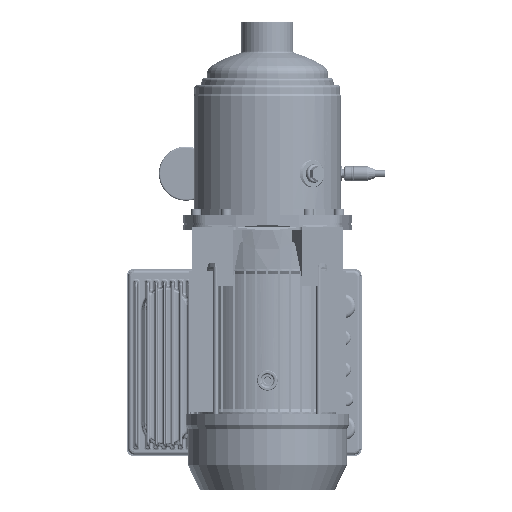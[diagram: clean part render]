
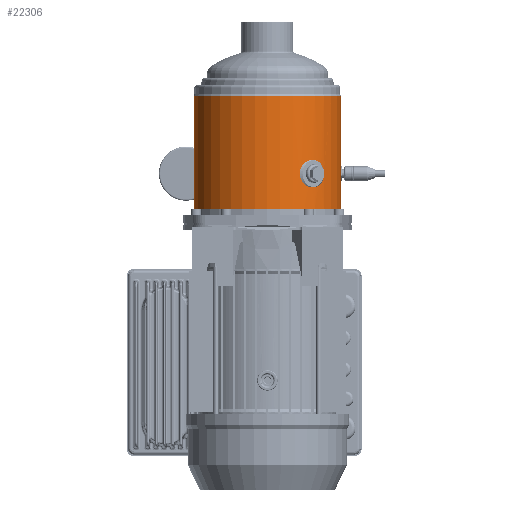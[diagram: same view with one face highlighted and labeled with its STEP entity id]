
A CAD part, front view. The second image highlights one B-rep face of the part: STEP entity #22306.
In plain terms, the highlighted cylindrical face has radius 72 mm (diameter 144 mm), a partial arc.
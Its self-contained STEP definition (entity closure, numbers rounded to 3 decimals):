
#19451=CARTESIAN_POINT('',(0.,8.4,0.));
#19452=DIRECTION('',(0.,1.,0.));
#19453=DIRECTION('',(0.,0.,-1.));
#19454=AXIS2_PLACEMENT_3D('',#19451,#19452,#19453);
#19527=DIRECTION('',(0.,1.,0.));
#19528=VECTOR('',#19527,110.614);
#19529=CARTESIAN_POINT('',(0.,8.4,-72.));
#19530=LINE('',#19529,#19528);
#19534=DIRECTION('',(0.,-1.,0.));
#19535=VECTOR('',#19534,110.614);
#19536=CARTESIAN_POINT('',(0.,119.014,72.));
#19537=LINE('',#19536,#19535);
#19541=CARTESIAN_POINT('',(-64.772,43.,
31.441));
#19542=CARTESIAN_POINT('',(-64.772,41.551,
31.441));
#19543=CARTESIAN_POINT('',(-64.552,38.752,
31.901));
#19544=CARTESIAN_POINT('',(-63.436,34.588,
34.11));
#19545=CARTESIAN_POINT('',(-61.387,31.256,
37.728));
#19546=CARTESIAN_POINT('',(-58.476,29.423,
42.129));
#19547=CARTESIAN_POINT('',(-55.02,29.424,
46.552));
#19548=CARTESIAN_POINT('',(-51.454,31.259,
50.44));
#19549=CARTESIAN_POINT('',(-48.44,34.593,
53.302));
#19550=CARTESIAN_POINT('',(-46.568,38.76,
54.919));
#19551=CARTESIAN_POINT('',(-46.177,41.554,
55.242));
#19552=CARTESIAN_POINT('',(-46.177,43.,
55.242));
#19557=CARTESIAN_POINT('',(-46.177,43.,
55.242));
#19558=CARTESIAN_POINT('',(-46.177,44.449,
55.242));
#19559=CARTESIAN_POINT('',(-46.57,47.248,
54.917));
#19560=CARTESIAN_POINT('',(-48.443,51.412,
53.3));
#19561=CARTESIAN_POINT('',(-51.458,54.744,
50.436));
#19562=CARTESIAN_POINT('',(-55.024,56.577,
46.547));
#19563=CARTESIAN_POINT('',(-58.48,56.576,
42.124));
#19564=CARTESIAN_POINT('',(-61.39,54.741,
37.723));
#19565=CARTESIAN_POINT('',(-63.438,51.407,
34.107));
#19566=CARTESIAN_POINT('',(-64.554,47.24,
31.899));
#19567=CARTESIAN_POINT('',(-64.772,44.446,
31.441));
#19568=CARTESIAN_POINT('',(-64.772,43.,
31.441));
#19581=CARTESIAN_POINT('',(0.,119.014,0.));
#19582=DIRECTION('',(0.,-1.,0.));
#19583=DIRECTION('',(0.,0.,1.));
#19584=AXIS2_PLACEMENT_3D('',#19581,#19582,#19583);
#21561=CARTESIAN_POINT('',(0.,8.4,72.));
#21562=CARTESIAN_POINT('',(0.,8.4,-72.));
#21563=VERTEX_POINT('',#21561);
#21564=VERTEX_POINT('',#21562);
#21565=CARTESIAN_POINT('',(0.,119.014,-72.));
#21566=VERTEX_POINT('',#21565);
#21567=CARTESIAN_POINT('',(0.,119.014,72.));
#21568=VERTEX_POINT('',#21567);
#21573=VERTEX_POINT('',#19541);
#21574=VERTEX_POINT('',#19552);
#22288=CARTESIAN_POINT('',(0.,121.227,0.));
#22289=DIRECTION('',(0.,-1.,0.));
#22290=DIRECTION('',(0.,0.,1.));
#22291=AXIS2_PLACEMENT_3D('',#22288,#22289,#22290);
#22292=CYLINDRICAL_SURFACE('',#22291,72.);
#22293=ORIENTED_EDGE('',*,*,#22266,.T.);
#22295=ORIENTED_EDGE('',*,*,#22294,.F.);
#22296=ORIENTED_EDGE('',*,*,#22269,.T.);
#22297=ORIENTED_EDGE('',*,*,#22256,.F.);
#22298=EDGE_LOOP('',(#22293,#22295,#22296,#22297));
#22299=FACE_OUTER_BOUND('',#22298,.F.);
#22301=ORIENTED_EDGE('',*,*,#22300,.T.);
#22303=ORIENTED_EDGE('',*,*,#22302,.T.);
#22304=EDGE_LOOP('',(#22301,#22303));
#22305=FACE_BOUND('',#22304,.F.);
#19455=CIRCLE('',#19454,72.);
#19553=B_SPLINE_CURVE_WITH_KNOTS('',3,(#19541,#19542,#19543,#19544,#19545,
#19546,#19547,#19548,#19549,#19550,#19551,#19552),.UNSPECIFIED.,.F.,.F.,(4,1,1,
1,1,1,1,1,1,4),(0.,0.111,0.222,0.333,
0.444,0.556,0.667,0.778,
0.889,1.),.UNSPECIFIED.);
#19569=B_SPLINE_CURVE_WITH_KNOTS('',3,(#19557,#19558,#19559,#19560,#19561,
#19562,#19563,#19564,#19565,#19566,#19567,#19568),.UNSPECIFIED.,.F.,.F.,(4,1,1,
1,1,1,1,1,1,4),(0.,0.111,0.222,0.333,
0.444,0.556,0.667,0.778,
0.889,1.),.UNSPECIFIED.);
#19585=CIRCLE('',#19584,72.);
#22256=EDGE_CURVE('',#21564,#21563,#19455,.T.);
#22266=EDGE_CURVE('',#21564,#21566,#19530,.T.);
#22269=EDGE_CURVE('',#21568,#21563,#19537,.T.);
#22294=EDGE_CURVE('',#21568,#21566,#19585,.T.);
#22300=EDGE_CURVE('',#21573,#21574,#19553,.T.);
#22302=EDGE_CURVE('',#21574,#21573,#19569,.T.);
#22306=ADVANCED_FACE('',(#22299,#22305),#22292,.T.);
